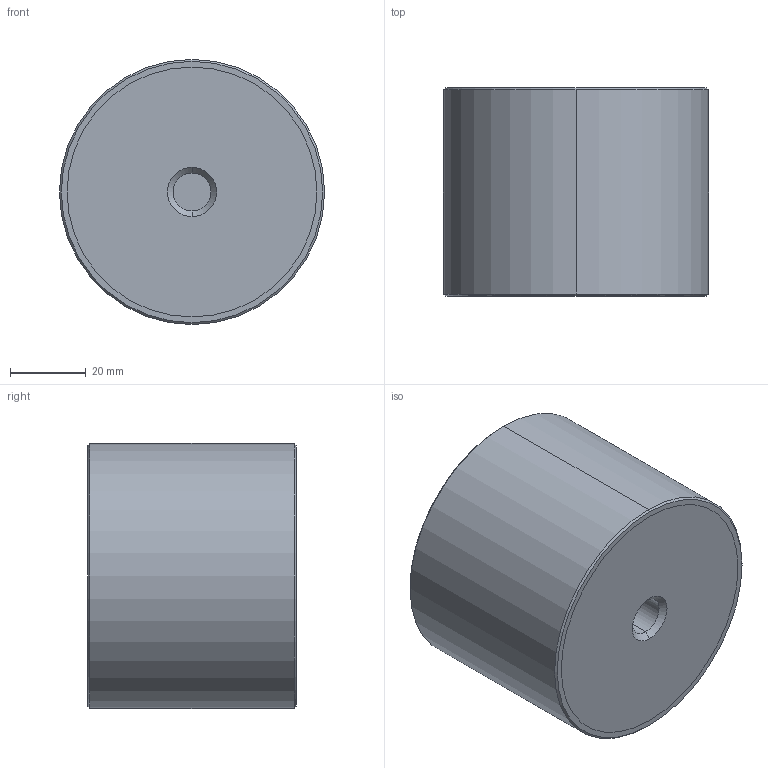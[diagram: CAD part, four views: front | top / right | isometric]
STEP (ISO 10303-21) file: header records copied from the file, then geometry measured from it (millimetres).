
FILE_DESCRIPTION (( 'STEP AP203' ), '1' );
FILE_NAME ('61080.W0703.step', '2018-07-16T20:46:23', ( '' ), ( '' ), 'SwSTEP 2.0', 'SolidWorks 2017', '' );
FILE_SCHEMA (( 'CONFIG_CONTROL_DESIGN' ));
Length unit declared in the file: millimetre
Products named in the file (4): Part1_61080.W0703; Part3_61080.W0703; 61080.W0703; Part2_61080.W0703
Assembly tree (3 placements, depth 2):
  61080.W0703
    Part1_61080.W0703
    Part2_61080.W0703
    Part3_61080.W0703
Bounding box: 70 x 55 x 70 mm (x, y, z)
Volume: 209961.5 mm3; surface area: 34856.2 mm2
Topology: 3 solids, 3 shells, 32 faces, 62 edges, 40 vertices
Faces by surface type: cylinder 14, plane 10, cone 8
Entity records: 1256 total; most frequent: DIRECTION 178, CARTESIAN_POINT 140, ORIENTED_EDGE 124, AXIS2_PLACEMENT_3D 78, EDGE_CURVE 62, EDGE_LOOP 40, CIRCLE 40, VERTEX_POINT 40
